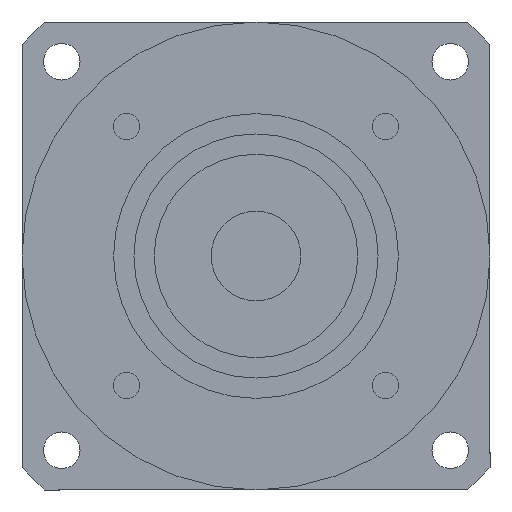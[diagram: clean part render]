
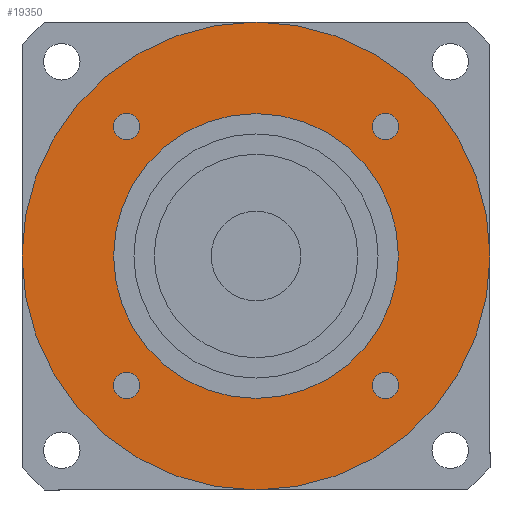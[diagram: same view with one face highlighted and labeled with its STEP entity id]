
A CAD part, left-side view. The second image highlights one B-rep face of the part: STEP entity #19350.
In plain terms, the highlighted planar face has unit normal (-1, 0, 0) as drawn and (0, 0, -1) by its records, which use the part's own axes.
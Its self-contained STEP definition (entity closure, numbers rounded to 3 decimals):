
#18020=CARTESIAN_POINT('',(57.5,0.,-120.));
#18030=VERTEX_POINT('',#18020);
#18060=CARTESIAN_POINT('',(0.,0.,
-120.));
#18070=DIRECTION('',(0.,0.,1.));
#18080=DIRECTION('',(0.,-1.,0.));
#18090=AXIS2_PLACEMENT_3D('',#18060,#18070,#18080);
#18100=CIRCLE('',#18090,57.5);
#18110=CARTESIAN_POINT('',(0.,-57.5,-120.));
#18120=VERTEX_POINT('',#18110);
#18130=EDGE_CURVE('',#18120,#18030,#18100,.T.);
#18150=CARTESIAN_POINT('',(-57.5,0.,-120.));
#18160=VERTEX_POINT('',#18150);
#18170=EDGE_CURVE('',#18160,#18120,#18100,.T.);
#18290=CARTESIAN_POINT('',(0.,0.,
-120.));
#18300=DIRECTION('',(0.,0.,1.));
#18310=DIRECTION('',(-1.,0.,0.));
#18320=AXIS2_PLACEMENT_3D('',#18290,#18300,#18310);
#18330=PLANE('',#18320);
#18340=CARTESIAN_POINT('',(31.82,-31.82,-120.));
#18350=DIRECTION('',(0.,0.,-1.));
#18360=DIRECTION('',(1.,0.,0.));
#18370=AXIS2_PLACEMENT_3D('',#18340,#18350,#18360);
#18380=CIRCLE('',#18370,3.25);
#18390=CARTESIAN_POINT('',(35.07,-31.82,-120.));
#18400=VERTEX_POINT('',#18390);
#18410=CARTESIAN_POINT('',(31.82,-35.07,-120.));
#18420=VERTEX_POINT('',#18410);
#18430=EDGE_CURVE('',#18400,#18420,#18380,.T.);
#18440=ORIENTED_EDGE('',*,*,#18430,.F.);
#18450=CARTESIAN_POINT('',(31.82,-28.57,-120.));
#18460=VERTEX_POINT('',#18450);
#18470=EDGE_CURVE('',#18420,#18460,#18380,.T.);
#18480=ORIENTED_EDGE('',*,*,#18470,.F.);
#18490=EDGE_CURVE('',#18460,#18400,#18380,.T.);
#18500=ORIENTED_EDGE('',*,*,#18490,.F.);
#18510=EDGE_LOOP('',(#18500,#18480,#18440));
#18520=FACE_BOUND('',#18510,.T.);
#18530=CARTESIAN_POINT('',(31.82,31.82,-120.));
#18540=DIRECTION('',(0.,0.,-1.));
#18550=DIRECTION('',(0.,1.,0.));
#18560=AXIS2_PLACEMENT_3D('',#18530,#18540,#18550);
#18570=CIRCLE('',#18560,3.25);
#18580=CARTESIAN_POINT('',(31.82,35.07,-120.));
#18590=VERTEX_POINT('',#18580);
#18600=CARTESIAN_POINT('',(35.07,31.82,-120.));
#18610=VERTEX_POINT('',#18600);
#18620=EDGE_CURVE('',#18590,#18610,#18570,.T.);
#18630=ORIENTED_EDGE('',*,*,#18620,.F.);
#18640=CARTESIAN_POINT('',(28.57,31.82,-120.));
#18650=VERTEX_POINT('',#18640);
#18660=EDGE_CURVE('',#18610,#18650,#18570,.T.);
#18670=ORIENTED_EDGE('',*,*,#18660,.F.);
#18680=EDGE_CURVE('',#18650,#18590,#18570,.T.);
#18690=ORIENTED_EDGE('',*,*,#18680,.F.);
#18700=EDGE_LOOP('',(#18690,#18670,#18630));
#18710=FACE_BOUND('',#18700,.T.);
#18720=CARTESIAN_POINT('',(-31.82,31.82,-120.));
#18730=DIRECTION('',(0.,0.,-1.));
#18740=DIRECTION('',(-1.,0.,0.));
#18750=AXIS2_PLACEMENT_3D('',#18720,#18730,#18740);
#18760=CIRCLE('',#18750,3.25);
#18770=CARTESIAN_POINT('',(-35.07,31.82,-120.));
#18780=VERTEX_POINT('',#18770);
#18790=CARTESIAN_POINT('',(-31.82,35.07,-120.));
#18800=VERTEX_POINT('',#18790);
#18810=EDGE_CURVE('',#18780,#18800,#18760,.T.);
#18820=ORIENTED_EDGE('',*,*,#18810,.F.);
#18830=CARTESIAN_POINT('',(-31.82,28.57,-120.));
#18840=VERTEX_POINT('',#18830);
#18850=EDGE_CURVE('',#18800,#18840,#18760,.T.);
#18860=ORIENTED_EDGE('',*,*,#18850,.F.);
#18870=EDGE_CURVE('',#18840,#18780,#18760,.T.);
#18880=ORIENTED_EDGE('',*,*,#18870,.F.);
#18890=EDGE_LOOP('',(#18880,#18860,#18820));
#18900=FACE_BOUND('',#18890,.T.);
#18910=CARTESIAN_POINT('',(-31.82,-31.82,-120.));
#18920=DIRECTION('',(0.,0.,-1.));
#18930=DIRECTION('',(0.,-1.,0.));
#18940=AXIS2_PLACEMENT_3D('',#18910,#18920,#18930);
#18950=CIRCLE('',#18940,3.25);
#18960=CARTESIAN_POINT('',(-31.82,-35.07,-120.));
#18970=VERTEX_POINT('',#18960);
#18980=CARTESIAN_POINT('',(-35.07,-31.82,-120.));
#18990=VERTEX_POINT('',#18980);
#19000=EDGE_CURVE('',#18970,#18990,#18950,.T.);
#19010=ORIENTED_EDGE('',*,*,#19000,.F.);
#19020=CARTESIAN_POINT('',(-28.57,-31.82,-120.));
#19030=VERTEX_POINT('',#19020);
#19040=EDGE_CURVE('',#18990,#19030,#18950,.T.);
#19050=ORIENTED_EDGE('',*,*,#19040,.F.);
#19060=EDGE_CURVE('',#19030,#18970,#18950,.T.);
#19070=ORIENTED_EDGE('',*,*,#19060,.F.);
#19080=EDGE_LOOP('',(#19070,#19050,#19010));
#19090=FACE_BOUND('',#19080,.T.);
#19100=ORIENTED_EDGE('',*,*,#18130,.F.);
#19110=EDGE_CURVE('',#18030,#18160,#18100,.T.);
#19120=ORIENTED_EDGE('',*,*,#19110,.F.);
#19130=ORIENTED_EDGE('',*,*,#18170,.F.);
#19140=EDGE_LOOP('',(#19130,#19120,#19100));
#19150=FACE_OUTER_BOUND('',#19140,.T.);
#19160=CARTESIAN_POINT('',(0.,0.,
-120.));
#19170=DIRECTION('',(0.,0.,1.));
#19180=DIRECTION('',(0.,-1.,0.));
#19190=AXIS2_PLACEMENT_3D('',#19160,#19170,#19180);
#19200=CIRCLE('',#19190,35.);
#19210=CARTESIAN_POINT('',(35.,0.,-120.));
#19220=VERTEX_POINT('',#19210);
#19230=CARTESIAN_POINT('',(-35.,0.,-120.));
#19240=VERTEX_POINT('',#19230);
#19250=EDGE_CURVE('',#19220,#19240,#19200,.T.);
#19260=ORIENTED_EDGE('',*,*,#19250,.T.);
#19270=CARTESIAN_POINT('',(0.,-35.,-120.));
#19280=VERTEX_POINT('',#19270);
#19290=EDGE_CURVE('',#19280,#19220,#19200,.T.);
#19300=ORIENTED_EDGE('',*,*,#19290,.T.);
#19310=EDGE_CURVE('',#19240,#19280,#19200,.T.);
#19320=ORIENTED_EDGE('',*,*,#19310,.T.);
#19330=EDGE_LOOP('',(#19320,#19300,#19260));
#19340=FACE_BOUND('',#19330,.T.);
#19350=ADVANCED_FACE('',(#18520,#18710,#18900,#19090,#19150,#19340),
#18330,.F.);
